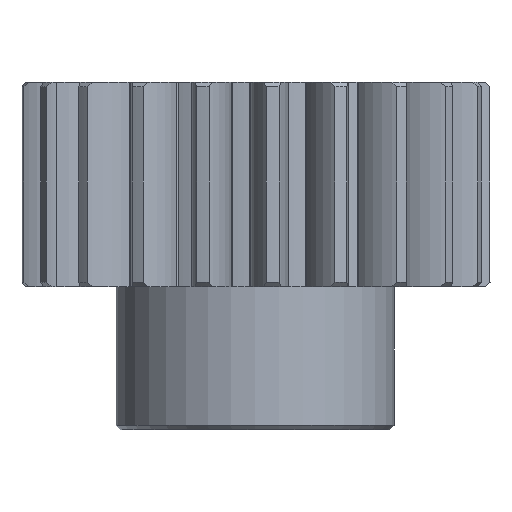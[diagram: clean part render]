
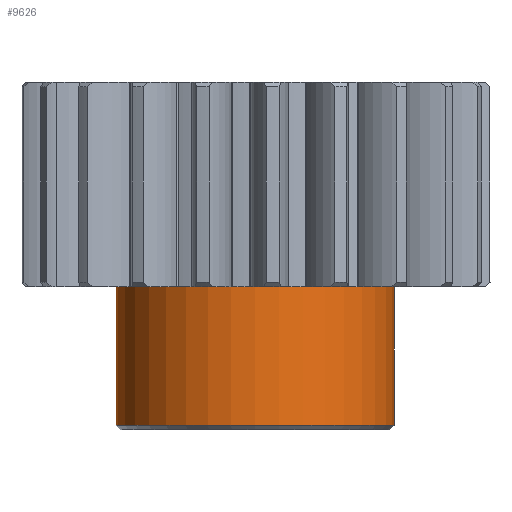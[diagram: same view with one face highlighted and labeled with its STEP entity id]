
A CAD part, left-side view. The second image highlights one B-rep face of the part: STEP entity #9626.
In plain terms, the highlighted cylindrical face has radius 34 mm (diameter 68 mm), a partial arc.
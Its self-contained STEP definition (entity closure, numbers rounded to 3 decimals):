
#885 = EDGE_CURVE ( 'NONE', #22943, #21926, #14358, .T. ) ;
#2264 = ORIENTED_EDGE ( 'NONE', *, *, #20864, .F. ) ;
#2350 = DIRECTION ( 'NONE',  ( 0., 0., -1. ) ) ;
#3163 = AXIS2_PLACEMENT_3D ( 'NONE', #26341, #9737, #26448 ) ;
#3578 = CARTESIAN_POINT ( 'NONE',  ( 0., 0., 35. ) ) ;
#4183 = CARTESIAN_POINT ( 'NONE',  ( 0., 0., 1.02 ) ) ;
#5382 = DIRECTION ( 'NONE',  ( 0., 0., -1. ) ) ;
#5542 = CARTESIAN_POINT ( 'NONE',  ( 0., -34., 35. ) ) ;
#5762 = VERTEX_POINT ( 'NONE', #27548 ) ;
#7846 = CYLINDRICAL_SURFACE ( 'NONE', #3163, 34. ) ;
#8487 = VERTEX_POINT ( 'NONE', #24638 ) ;
#8954 = VECTOR ( 'NONE', #5382, 1000. ) ;
#9626 = ADVANCED_FACE ( 'NONE', ( #9779 ), #7846, .T. ) ;
#9737 = DIRECTION ( 'NONE',  ( 0., 0., -1. ) ) ;
#9779 = FACE_OUTER_BOUND ( 'NONE', #15401, .T. ) ;
#13875 = ORIENTED_EDGE ( 'NONE', *, *, #18831, .T. ) ;
#14358 = CIRCLE ( 'NONE', #17954, 34. ) ;
#15401 = EDGE_LOOP ( 'NONE', ( #2264, #25662, #20926, #13875 ) ) ;
#15539 = DIRECTION ( 'NONE',  ( 0., 1., 0. ) ) ;
#16756 = CARTESIAN_POINT ( 'NONE',  ( 0., 34., 35. ) ) ;
#17312 = EDGE_CURVE ( 'NONE', #21926, #5762, #22772, .T. ) ;
#17954 = AXIS2_PLACEMENT_3D ( 'NONE', #3578, #18328, #15539 ) ;
#18328 = DIRECTION ( 'NONE',  ( 0., 0., -1. ) ) ;
#18831 = EDGE_CURVE ( 'NONE', #5762, #8487, #28332, .T. ) ;
#20864 = EDGE_CURVE ( 'NONE', #22943, #8487, #23341, .T. ) ;
#20915 = DIRECTION ( 'NONE',  ( 0., 0., 1. ) ) ;
#20926 = ORIENTED_EDGE ( 'NONE', *, *, #17312, .T. ) ;
#21844 = VECTOR ( 'NONE', #2350, 1000. ) ;
#21926 = VERTEX_POINT ( 'NONE', #16756 ) ;
#22772 = LINE ( 'NONE', #29525, #8954 ) ;
#22943 = VERTEX_POINT ( 'NONE', #5542 ) ;
#23319 = DIRECTION ( 'NONE',  ( 0., 1., 0. ) ) ;
#23341 = LINE ( 'NONE', #30917, #21844 ) ;
#24638 = CARTESIAN_POINT ( 'NONE',  ( 0., -34., 1.02 ) ) ;
#25662 = ORIENTED_EDGE ( 'NONE', *, *, #885, .T. ) ;
#26341 = CARTESIAN_POINT ( 'NONE',  ( 0., 0., 0. ) ) ;
#26448 = DIRECTION ( 'NONE',  ( 0., 1., 0. ) ) ;
#27548 = CARTESIAN_POINT ( 'NONE',  ( 0., 34., 1.02 ) ) ;
#28248 = AXIS2_PLACEMENT_3D ( 'NONE', #4183, #20915, #23319 ) ;
#28332 = CIRCLE ( 'NONE', #28248, 34. ) ;
#29525 = CARTESIAN_POINT ( 'NONE',  ( 0., 34., 0. ) ) ;
#30917 = CARTESIAN_POINT ( 'NONE',  ( 0., -34., 0. ) ) ;
